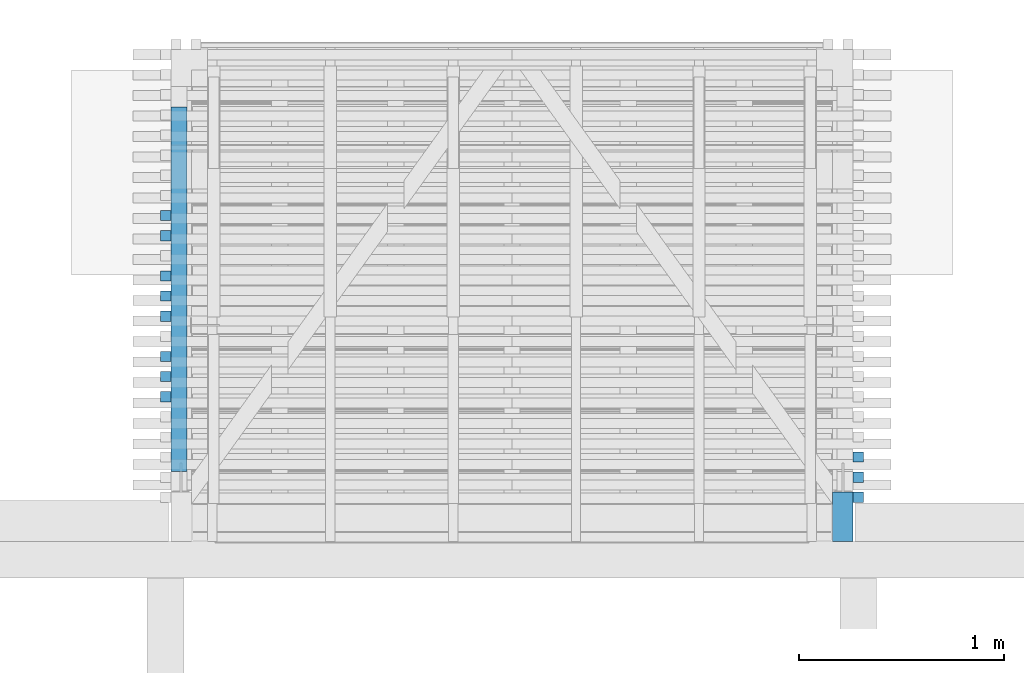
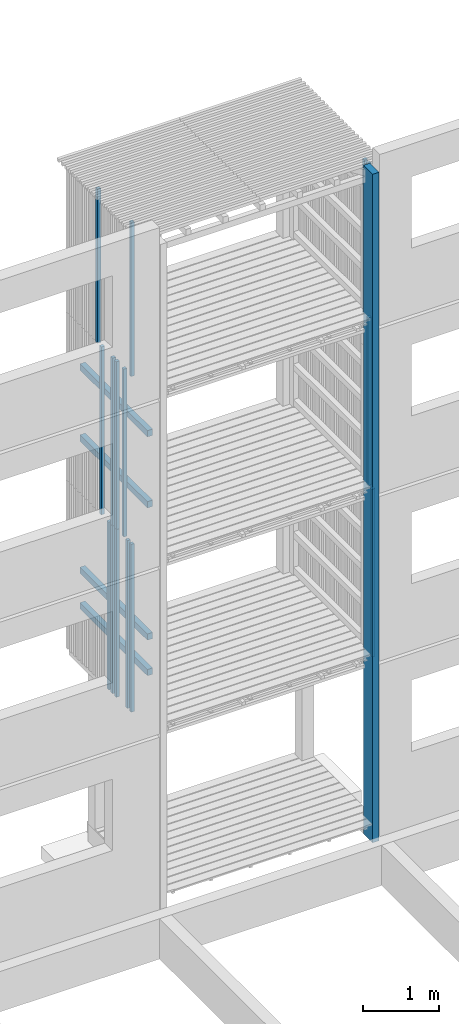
# One storey, part 88 of 182: 20 beams.
"""IFC2X3 building model written with IfcOpenShell, lengths in metres."""

from ifc_helpers import new_model, si_unit, frame, origin, place, context, project, spatial, faceted_brep, element, save


model = new_model("IFC2X3")

# Units and contexts
model_context = context("Model", 3, precision=1e-06, world=origin())
ifc_project = project(units=[si_unit("LENGTHUNIT", "METRE"), si_unit("PLANEANGLEUNIT", "RADIAN")], contexts=[model_context])

# Site, building, storey
site = spatial("IfcSite", under=ifc_project, CompositionType="ELEMENT")
building = spatial("IfcBuilding", under=site, CompositionType="ELEMENT")
storey = spatial("IfcBuildingStorey", under=building, Name="vs", CompositionType="ELEMENT", Elevation=-0.85)

# Beams
placement = place(None, origin())
beam_1_placement = place(placement, frame((43.055401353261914, 5.210077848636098, 3.401250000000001), z_axis=(0.0, 0.0, 1.0), x_axis=(0.0, 1.0, 0.0)))
element("IfcBeam", 1, at=beam_1_placement, inside=storey, Name="Support bardage", context=model_context, shape_type="Brep", body=[
    faceted_brep([(1.779999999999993, 0.039999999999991, -0.050000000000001), (1.779999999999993, 0.039999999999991, 0.05), (1.779999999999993, -0.040000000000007, 0.05), (1.779999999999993, -0.040000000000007, -0.050000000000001), (1.779999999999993, -0.040000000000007, 0.05), (1.779999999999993, 0.039999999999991, 0.05), (-4e-15, 0.039999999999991, 0.05), (-4e-15, -0.040000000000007, 0.05), (-4e-15, 0.039999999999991, 0.05), (1.779999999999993, 0.039999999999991, 0.05), (1.779999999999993, 0.039999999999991, -0.050000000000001), (-4e-15, 0.039999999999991, -0.050000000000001), (1.779999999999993, -0.040000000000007, -0.050000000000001), (1.779999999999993, -0.040000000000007, 0.05), (-4e-15, -0.040000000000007, 0.05), (-4e-15, -0.040000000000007, -0.050000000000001), (-4e-15, 0.039999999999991, -0.050000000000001), (1.779999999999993, 0.039999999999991, -0.050000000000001), (1.779999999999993, -0.040000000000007, -0.050000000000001), (-4e-15, -0.040000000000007, -0.050000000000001), (-4e-15, 0.039999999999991, 0.05), (-4e-15, 0.039999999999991, -0.050000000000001), (-4e-15, -0.040000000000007, -0.050000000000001), (-4e-15, -0.040000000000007, 0.05)], [[[0, 1, 2, 3]], [[4, 5, 6, 7]], [[8, 9, 10, 11]], [[12, 13, 14, 15]], [[16, 17, 18, 19]], [[20, 21, 22, 23]]]),
])
beam_2_placement = place(placement, frame((43.055401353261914, 5.210077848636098, 6.101249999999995), z_axis=(0.0, 0.0, 1.0), x_axis=(0.0, 1.0, 0.0)))
element("IfcBeam", 2, at=beam_2_placement, inside=storey, Name="Support bardage", context=model_context, shape_type="Brep", body=[
    faceted_brep([(1.779999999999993, 0.039999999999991, -0.05), (1.779999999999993, 0.039999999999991, 0.050000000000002), (1.779999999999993, -0.040000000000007, 0.050000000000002), (1.779999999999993, -0.040000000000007, -0.05), (1.779999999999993, -0.040000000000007, 0.050000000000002), (1.779999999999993, 0.039999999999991, 0.050000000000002), (-4e-15, 0.039999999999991, 0.050000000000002), (-4e-15, -0.040000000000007, 0.050000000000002), (-4e-15, 0.039999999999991, 0.050000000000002), (1.779999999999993, 0.039999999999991, 0.050000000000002), (1.779999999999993, 0.039999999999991, -0.05), (-4e-15, 0.039999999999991, -0.05), (1.779999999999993, -0.040000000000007, -0.05), (1.779999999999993, -0.040000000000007, 0.050000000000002), (-4e-15, -0.040000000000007, 0.050000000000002), (-4e-15, -0.040000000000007, -0.05), (-4e-15, 0.039999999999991, -0.05), (1.779999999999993, 0.039999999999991, -0.05), (1.779999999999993, -0.040000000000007, -0.05), (-4e-15, -0.040000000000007, -0.05), (-4e-15, 0.039999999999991, 0.050000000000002), (-4e-15, 0.039999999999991, -0.05), (-4e-15, -0.040000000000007, -0.05), (-4e-15, -0.040000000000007, 0.050000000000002)], [[[0, 1, 2, 3]], [[4, 5, 6, 7]], [[8, 9, 10, 11]], [[12, 13, 14, 15]], [[16, 17, 18, 19]], [[20, 21, 22, 23]]]),
])
beam_3_placement = place(placement, frame((43.055401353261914, 5.210077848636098, 3.972499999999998), z_axis=(0.0, 0.0, 1.0), x_axis=(0.0, 1.0, 0.0)))
element("IfcBeam", 3, at=beam_3_placement, inside=storey, Name="Support bardage", context=model_context, shape_type="Brep", body=[
    faceted_brep([(1.779999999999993, 0.039999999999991, -0.050000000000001), (1.779999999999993, 0.039999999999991, 0.050000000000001), (1.779999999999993, -0.040000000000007, 0.050000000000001), (1.779999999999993, -0.040000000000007, -0.050000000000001), (1.779999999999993, -0.040000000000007, 0.050000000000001), (1.779999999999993, 0.039999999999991, 0.050000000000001), (-4e-15, 0.039999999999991, 0.050000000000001), (-4e-15, -0.040000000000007, 0.050000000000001), (-4e-15, 0.039999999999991, 0.050000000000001), (1.779999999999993, 0.039999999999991, 0.050000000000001), (1.779999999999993, 0.039999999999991, -0.050000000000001), (-4e-15, 0.039999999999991, -0.050000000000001), (1.779999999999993, -0.040000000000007, -0.050000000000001), (1.779999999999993, -0.040000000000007, 0.050000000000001), (-4e-15, -0.040000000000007, 0.050000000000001), (-4e-15, -0.040000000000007, -0.050000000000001), (-4e-15, 0.039999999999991, -0.050000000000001), (1.779999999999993, 0.039999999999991, -0.050000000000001), (1.779999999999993, -0.040000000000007, -0.050000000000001), (-4e-15, -0.040000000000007, -0.050000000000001), (-4e-15, 0.039999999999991, 0.050000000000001), (-4e-15, 0.039999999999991, -0.050000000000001), (-4e-15, -0.040000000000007, -0.050000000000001), (-4e-15, -0.040000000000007, 0.050000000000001)], [[[0, 1, 2, 3]], [[4, 5, 6, 7]], [[8, 9, 10, 11]], [[12, 13, 14, 15]], [[16, 17, 18, 19]], [[20, 21, 22, 23]]]),
])
beam_4_placement = place(placement, frame((42.99040135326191, 6.361441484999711, 5.274999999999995), z_axis=(1.0, 0.0, 0.0), x_axis=(0.0, 0.0, 1.0)))
element("IfcBeam", 4, at=beam_4_placement, inside=storey, Name="Bardage", context=model_context, shape_type="Brep", body=[
    faceted_brep([(2.699999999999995, 0.024999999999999, 0.025000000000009), (2.699999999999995, -0.024999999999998, 0.025000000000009), (2.699999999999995, -0.024999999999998, -0.025000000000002), (2.699999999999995, 0.024999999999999, -0.025000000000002), (1e-15, 0.024999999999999, 0.025000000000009), (2.699999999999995, 0.024999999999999, 0.025000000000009), (2.699999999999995, 0.024999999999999, -0.025000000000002), (1e-15, 0.024999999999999, -0.025000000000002), (1e-15, -0.024999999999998, 0.025000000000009), (1e-15, 0.024999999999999, 0.025000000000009), (1e-15, 0.024999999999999, -0.025000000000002), (1e-15, -0.024999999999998, -0.025000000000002), (1e-15, 0.024999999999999, 0.025000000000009), (1e-15, -0.024999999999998, 0.025000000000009), (2.699999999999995, -0.024999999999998, 0.025000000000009), (2.699999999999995, 0.024999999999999, 0.025000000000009), (1e-15, -0.024999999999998, 0.025000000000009), (1e-15, -0.024999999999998, -0.025000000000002), (2.699999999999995, -0.024999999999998, -0.025000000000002), (2.699999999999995, -0.024999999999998, 0.025000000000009), (1e-15, -0.024999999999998, -0.025000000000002), (1e-15, 0.024999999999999, -0.025000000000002), (2.699999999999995, 0.024999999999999, -0.025000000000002), (2.699999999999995, -0.024999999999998, -0.025000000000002)], [[[0, 1, 2, 3]], [[4, 5, 6, 7]], [[8, 9, 10, 11]], [[12, 13, 14, 15]], [[16, 17, 18, 19]], [[20, 21, 22, 23]]]),
])
beam_5_placement = place(placement, frame((42.99040135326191, 5.575986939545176, 7.974999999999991), z_axis=(1.0, 0.0, 0.0), x_axis=(0.0, 0.0, 1.0)))
element("IfcBeam", 5, at=beam_5_placement, inside=storey, Name="Bardage", context=model_context, shape_type="Brep", body=[
    faceted_brep([(0.0, -0.024999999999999, 0.025000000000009), (0.0, 0.024999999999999, 0.025000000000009), (0.0, 0.024999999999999, -0.025000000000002), (0.0, -0.024999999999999, -0.025000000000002), (2.479999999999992, 0.024999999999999, -0.025000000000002), (2.479999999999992, 0.024999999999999, 0.025000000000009), (2.479999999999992, -0.024999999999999, 0.025000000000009), (2.479999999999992, -0.024999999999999, -0.025000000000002), (0.0, 0.024999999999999, 0.025000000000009), (0.0, -0.024999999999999, 0.025000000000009), (2.479999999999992, -0.024999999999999, 0.025000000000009), (2.479999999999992, 0.024999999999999, 0.025000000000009), (0.0, 0.024999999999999, -0.025000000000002), (0.0, 0.024999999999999, 0.025000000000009), (2.479999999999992, 0.024999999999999, 0.025000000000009), (2.479999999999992, 0.024999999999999, -0.025000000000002), (0.0, -0.024999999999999, -0.025000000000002), (0.0, 0.024999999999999, -0.025000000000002), (2.479999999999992, 0.024999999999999, -0.025000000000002), (2.479999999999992, -0.024999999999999, -0.025000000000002), (2.479999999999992, -0.024999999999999, 0.025000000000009), (0.0, -0.024999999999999, 0.025000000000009), (0.0, -0.024999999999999, -0.025000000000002), (2.479999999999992, -0.024999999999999, -0.025000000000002)], [[[0, 1, 2, 3]], [[4, 5, 6, 7]], [[8, 9, 10, 11]], [[12, 13, 14, 15]], [[16, 17, 18, 19]], [[20, 21, 22, 23]]]),
])
beam_6_placement = place(placement, frame((42.99040135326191, 5.968714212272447, 5.274999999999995), z_axis=(1.0, 0.0, 0.0), x_axis=(0.0, 0.0, 1.0)))
element("IfcBeam", 6, at=beam_6_placement, inside=storey, Name="Bardage", context=model_context, shape_type="Brep", body=[
    faceted_brep([(2.699999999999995, 0.025000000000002, 0.025000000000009), (2.699999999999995, -0.024999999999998, 0.025000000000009), (2.699999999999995, -0.024999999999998, -0.025000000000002), (2.699999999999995, 0.025000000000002, -0.025000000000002), (1e-15, 0.025000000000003, 0.025000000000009), (2.699999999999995, 0.025000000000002, 0.025000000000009), (2.699999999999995, 0.025000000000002, -0.025000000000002), (1e-15, 0.025000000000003, -0.025000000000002), (1e-15, -0.024999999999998, 0.025000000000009), (1e-15, 0.025000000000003, 0.025000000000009), (1e-15, 0.025000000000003, -0.025000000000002), (1e-15, -0.024999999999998, -0.025000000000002), (1e-15, 0.025000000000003, 0.025000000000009), (1e-15, -0.024999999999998, 0.025000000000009), (2.699999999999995, -0.024999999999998, 0.025000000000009), (2.699999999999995, 0.025000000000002, 0.025000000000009), (1e-15, -0.024999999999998, 0.025000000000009), (1e-15, -0.024999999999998, -0.025000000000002), (2.699999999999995, -0.024999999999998, -0.025000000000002), (2.699999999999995, -0.024999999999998, 0.025000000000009), (1e-15, -0.024999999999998, -0.025000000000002), (1e-15, 0.025000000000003, -0.025000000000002), (2.699999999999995, 0.025000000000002, -0.025000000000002), (2.699999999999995, -0.024999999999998, -0.025000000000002)], [[[0, 1, 2, 3]], [[4, 5, 6, 7]], [[8, 9, 10, 11]], [[12, 13, 14, 15]], [[16, 17, 18, 19]], [[20, 21, 22, 23]]]),
])
beam_7_placement = place(placement, frame((42.99040135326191, 6.165077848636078, 2.575000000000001), z_axis=(1.0, 0.0, 0.0), x_axis=(0.0, 0.0, 1.0)))
element("IfcBeam", 7, at=beam_7_placement, inside=storey, Name="Bardage", context=model_context, shape_type="Brep", body=[
    faceted_brep([(2.699961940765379, -0.025000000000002, 0.025000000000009), (2.699961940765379, -0.025000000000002, -0.025000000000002), (2.699961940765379, 0.025000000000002, -0.025000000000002), (2.699961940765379, 0.025000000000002, 0.025000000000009), (0.0, -0.025000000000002, 0.025000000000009), (2.699961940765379, -0.025000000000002, 0.025000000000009), (2.699961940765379, 0.025000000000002, 0.025000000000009), (0.0, 0.025000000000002, 0.025000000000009), (0.0, -0.025000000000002, 0.025000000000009), (0.0, 0.025000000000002, 0.025000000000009), (0.0, 0.025000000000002, -0.025000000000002), (0.0, -0.025000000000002, -0.025000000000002), (0.0, -0.025000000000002, 0.025000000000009), (0.0, -0.025000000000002, -0.025000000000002), (2.699961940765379, -0.025000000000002, -0.025000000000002), (2.699961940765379, -0.025000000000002, 0.025000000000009), (0.0, -0.025000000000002, -0.025000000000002), (0.0, 0.025000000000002, -0.025000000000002), (2.699961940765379, 0.025000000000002, -0.025000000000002), (2.699961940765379, -0.025000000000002, -0.025000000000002), (0.0, 0.025000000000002, -0.025000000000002), (0.0, 0.025000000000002, 0.025000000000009), (2.699961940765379, 0.025000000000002, 0.025000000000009), (2.699961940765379, 0.025000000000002, -0.025000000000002)], [[[0, 1, 2, 3]], [[4, 5, 6, 7]], [[8, 9, 10, 11]], [[12, 13, 14, 15]], [[16, 17, 18, 19]], [[20, 21, 22, 23]]]),
])
beam_8_placement = place(placement, frame((42.99040135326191, 5.772350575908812, 5.274999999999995), z_axis=(1.0, 0.0, 0.0), x_axis=(0.0, 0.0, 1.0)))
element("IfcBeam", 8, at=beam_8_placement, inside=storey, Name="Bardage", context=model_context, shape_type="Brep", body=[
    faceted_brep([(2.699999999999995, 0.024999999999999, 0.025000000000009), (2.699999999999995, -0.024999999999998, 0.025000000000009), (2.699999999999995, -0.024999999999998, -0.025000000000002), (2.699999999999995, 0.024999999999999, -0.025000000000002), (1e-15, 0.024999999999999, 0.025000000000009), (2.699999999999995, 0.024999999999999, 0.025000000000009), (2.699999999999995, 0.024999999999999, -0.025000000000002), (1e-15, 0.024999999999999, -0.025000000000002), (1e-15, -0.024999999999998, 0.025000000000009), (1e-15, 0.024999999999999, 0.025000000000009), (1e-15, 0.024999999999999, -0.025000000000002), (1e-15, -0.024999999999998, -0.025000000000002), (1e-15, 0.024999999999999, 0.025000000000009), (1e-15, -0.024999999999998, 0.025000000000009), (2.699999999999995, -0.024999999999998, 0.025000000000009), (2.699999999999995, 0.024999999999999, 0.025000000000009), (1e-15, -0.024999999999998, 0.025000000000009), (1e-15, -0.024999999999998, -0.025000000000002), (2.699999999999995, -0.024999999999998, -0.025000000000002), (2.699999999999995, -0.024999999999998, 0.025000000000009), (1e-15, -0.024999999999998, -0.025000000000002), (1e-15, 0.024999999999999, -0.025000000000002), (2.699999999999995, 0.024999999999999, -0.025000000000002), (2.699999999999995, -0.024999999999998, -0.025000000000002)], [[[0, 1, 2, 3]], [[4, 5, 6, 7]], [[8, 9, 10, 11]], [[12, 13, 14, 15]], [[16, 17, 18, 19]], [[20, 21, 22, 23]]]),
])
beam_9_placement = place(placement, frame((43.055401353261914, 5.210077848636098, 7.24374999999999), z_axis=(0.0, 0.0, 1.0), x_axis=(0.0, 1.0, 0.0)))
element("IfcBeam", 9, at=beam_9_placement, inside=storey, Name="Support bardage", context=model_context, shape_type="Brep", body=[
    faceted_brep([(1.779999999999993, 0.039999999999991, -0.049999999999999), (1.779999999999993, 0.039999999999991, 0.050000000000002), (1.779999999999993, -0.040000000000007, 0.050000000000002), (1.779999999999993, -0.040000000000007, -0.049999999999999), (1.779999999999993, -0.040000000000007, 0.050000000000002), (1.779999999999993, 0.039999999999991, 0.050000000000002), (-4e-15, 0.039999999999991, 0.050000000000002), (-4e-15, -0.040000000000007, 0.050000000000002), (-4e-15, 0.039999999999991, 0.050000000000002), (1.779999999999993, 0.039999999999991, 0.050000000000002), (1.779999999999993, 0.039999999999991, -0.049999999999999), (-4e-15, 0.039999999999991, -0.049999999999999), (1.779999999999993, -0.040000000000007, -0.049999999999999), (1.779999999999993, -0.040000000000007, 0.050000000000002), (-4e-15, -0.040000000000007, 0.050000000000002), (-4e-15, -0.040000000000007, -0.049999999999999), (-4e-15, 0.039999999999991, -0.049999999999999), (1.779999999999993, 0.039999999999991, -0.049999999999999), (1.779999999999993, -0.040000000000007, -0.049999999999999), (-4e-15, -0.040000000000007, -0.049999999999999), (-4e-15, 0.039999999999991, 0.050000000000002), (-4e-15, 0.039999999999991, -0.049999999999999), (-4e-15, -0.040000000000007, -0.049999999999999), (-4e-15, -0.040000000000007, 0.050000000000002)], [[[0, 1, 2, 3]], [[4, 5, 6, 7]], [[8, 9, 10, 11]], [[12, 13, 14, 15]], [[16, 17, 18, 19]], [[20, 21, 22, 23]]]),
])
beam_10_placement = place(placement, frame((42.99040135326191, 6.066896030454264, 5.274999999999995), z_axis=(1.0, 0.0, 0.0), x_axis=(0.0, 0.0, 1.0)))
element("IfcBeam", 10, at=beam_10_placement, inside=storey, Name="Bardage", context=model_context, shape_type="Brep", body=[
    faceted_brep([(2.699999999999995, 0.025000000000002, 0.025000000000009), (2.699999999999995, -0.024999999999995, 0.025000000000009), (2.699999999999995, -0.024999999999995, -0.025000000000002), (2.699999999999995, 0.025000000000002, -0.025000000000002), (1e-15, 0.025000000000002, 0.025000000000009), (2.699999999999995, 0.025000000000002, 0.025000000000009), (2.699999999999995, 0.025000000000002, -0.025000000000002), (1e-15, 0.025000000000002, -0.025000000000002), (1e-15, -0.024999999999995, 0.025000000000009), (1e-15, 0.025000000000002, 0.025000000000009), (1e-15, 0.025000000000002, -0.025000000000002), (1e-15, -0.024999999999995, -0.025000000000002), (1e-15, 0.025000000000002, 0.025000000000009), (1e-15, -0.024999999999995, 0.025000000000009), (2.699999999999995, -0.024999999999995, 0.025000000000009), (2.699999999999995, 0.025000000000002, 0.025000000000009), (1e-15, -0.024999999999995, 0.025000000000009), (1e-15, -0.024999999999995, -0.025000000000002), (2.699999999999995, -0.024999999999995, -0.025000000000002), (2.699999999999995, -0.024999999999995, 0.025000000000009), (1e-15, -0.024999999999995, -0.025000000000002), (1e-15, 0.025000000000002, -0.025000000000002), (2.699999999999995, 0.025000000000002, -0.025000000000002), (2.699999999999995, -0.024999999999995, -0.025000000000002)], [[[0, 1, 2, 3]], [[4, 5, 6, 7]], [[8, 9, 10, 11]], [[12, 13, 14, 15]], [[16, 17, 18, 19]], [[20, 21, 22, 23]]]),
])
beam_11_placement = place(placement, frame((42.99040135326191, 6.066896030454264, 2.575000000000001), z_axis=(1.0, 0.0, 0.0), x_axis=(0.0, 0.0, 1.0)))
element("IfcBeam", 11, at=beam_11_placement, inside=storey, Name="Bardage", context=model_context, shape_type="Brep", body=[
    faceted_brep([(2.699961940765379, -0.024999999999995, 0.025000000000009), (2.699961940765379, -0.024999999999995, -0.025000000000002), (2.699961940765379, 0.025000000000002, -0.025000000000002), (2.699961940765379, 0.025000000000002, 0.025000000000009), (0.0, -0.024999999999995, 0.025000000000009), (2.699961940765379, -0.024999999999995, 0.025000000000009), (2.699961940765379, 0.025000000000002, 0.025000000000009), (0.0, 0.025000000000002, 0.025000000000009), (0.0, -0.024999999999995, 0.025000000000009), (0.0, 0.025000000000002, 0.025000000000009), (0.0, 0.025000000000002, -0.025000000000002), (0.0, -0.024999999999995, -0.025000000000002), (0.0, -0.024999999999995, 0.025000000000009), (0.0, -0.024999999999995, -0.025000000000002), (2.699961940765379, -0.024999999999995, -0.025000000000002), (2.699961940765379, -0.024999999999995, 0.025000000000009), (0.0, -0.024999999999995, -0.025000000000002), (0.0, 0.025000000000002, -0.025000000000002), (2.699961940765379, 0.025000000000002, -0.025000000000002), (2.699961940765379, -0.024999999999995, -0.025000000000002), (0.0, 0.025000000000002, -0.025000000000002), (0.0, 0.025000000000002, 0.025000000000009), (2.699961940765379, 0.025000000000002, 0.025000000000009), (2.699961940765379, 0.025000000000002, -0.025000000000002)], [[[0, 1, 2, 3]], [[4, 5, 6, 7]], [[8, 9, 10, 11]], [[12, 13, 14, 15]], [[16, 17, 18, 19]], [[20, 21, 22, 23]]]),
])
beam_12_placement = place(placement, frame((42.99040135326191, 5.674168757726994, 2.575000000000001), z_axis=(1.0, 0.0, 0.0), x_axis=(0.0, 1e-15, 1.0)))
element("IfcBeam", 12, at=beam_12_placement, inside=storey, Name="Bardage", context=model_context, shape_type="Brep", body=[
    faceted_brep([(2.699961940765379, -0.024999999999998, 0.025000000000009), (2.699961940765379, -0.024999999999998, -0.025000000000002), (2.699961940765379, 0.025000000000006, -0.025000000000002), (2.699961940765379, 0.025000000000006, 0.025000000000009), (0.0, -0.025000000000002, 0.025000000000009), (2.699961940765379, -0.024999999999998, 0.025000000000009), (2.699961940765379, 0.025000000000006, 0.025000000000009), (0.0, 0.025000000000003, 0.025000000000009), (0.0, -0.025000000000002, 0.025000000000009), (0.0, 0.025000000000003, 0.025000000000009), (0.0, 0.025000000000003, -0.025000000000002), (0.0, -0.025000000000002, -0.025000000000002), (0.0, -0.025000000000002, 0.025000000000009), (0.0, -0.025000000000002, -0.025000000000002), (2.699961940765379, -0.024999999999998, -0.025000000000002), (2.699961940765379, -0.024999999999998, 0.025000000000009), (0.0, -0.025000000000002, -0.025000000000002), (0.0, 0.025000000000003, -0.025000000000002), (2.699961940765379, 0.025000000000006, -0.025000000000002), (2.699961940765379, -0.024999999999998, -0.025000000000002), (0.0, 0.025000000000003, -0.025000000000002), (0.0, 0.025000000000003, 0.025000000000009), (2.699961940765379, 0.025000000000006, 0.025000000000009), (2.699961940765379, 0.025000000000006, -0.025000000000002)], [[[0, 1, 2, 3]], [[4, 5, 6, 7]], [[8, 9, 10, 11]], [[12, 13, 14, 15]], [[16, 17, 18, 19]], [[20, 21, 22, 23]]]),
])
beam_13_placement = place(placement, frame((42.99040135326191, 6.459623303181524, 7.974999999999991), z_axis=(1.0, 0.0, 0.0), x_axis=(0.0, 0.0, 1.0)))
element("IfcBeam", 13, at=beam_13_placement, inside=storey, Name="Bardage", context=model_context, shape_type="Brep", body=[
    faceted_brep([(0.0, -0.025000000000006, 0.025000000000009), (0.0, 0.024999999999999, 0.025000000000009), (0.0, 0.024999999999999, -0.025000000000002), (0.0, -0.025000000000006, -0.025000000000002), (2.479999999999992, 0.024999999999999, -0.025000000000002), (2.479999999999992, 0.024999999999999, 0.025000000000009), (2.479999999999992, -0.025000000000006, 0.025000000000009), (2.479999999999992, -0.025000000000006, -0.025000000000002), (0.0, 0.024999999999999, 0.025000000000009), (0.0, -0.025000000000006, 0.025000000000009), (2.479999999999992, -0.025000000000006, 0.025000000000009), (2.479999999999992, 0.024999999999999, 0.025000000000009), (0.0, 0.024999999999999, -0.025000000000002), (0.0, 0.024999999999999, 0.025000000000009), (2.479999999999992, 0.024999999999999, 0.025000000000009), (2.479999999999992, 0.024999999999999, -0.025000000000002), (0.0, -0.025000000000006, -0.025000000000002), (0.0, 0.024999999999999, -0.025000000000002), (2.479999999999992, 0.024999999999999, -0.025000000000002), (2.479999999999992, -0.025000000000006, -0.025000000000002), (2.479999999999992, -0.025000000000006, 0.025000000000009), (0.0, -0.025000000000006, 0.025000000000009), (0.0, -0.025000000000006, -0.025000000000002), (2.479999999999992, -0.025000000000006, -0.025000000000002)], [[[0, 1, 2, 3]], [[4, 5, 6, 7]], [[8, 9, 10, 11]], [[12, 13, 14, 15]], [[16, 17, 18, 19]], [[20, 21, 22, 23]]]),
])
beam_14_placement = place(placement, frame((42.99040135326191, 5.968714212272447, 2.575000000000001), z_axis=(1.0, 0.0, 0.0), x_axis=(0.0, 0.0, 1.0)))
element("IfcBeam", 14, at=beam_14_placement, inside=storey, Name="Bardage", context=model_context, shape_type="Brep", body=[
    faceted_brep([(2.699961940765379, -0.024999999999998, 0.025000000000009), (2.699961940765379, -0.024999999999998, -0.025000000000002), (2.699961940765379, 0.025000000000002, -0.025000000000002), (2.699961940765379, 0.025000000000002, 0.025000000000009), (0.0, -0.024999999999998, 0.025000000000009), (2.699961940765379, -0.024999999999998, 0.025000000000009), (2.699961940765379, 0.025000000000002, 0.025000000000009), (0.0, 0.025000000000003, 0.025000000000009), (0.0, -0.024999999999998, 0.025000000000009), (0.0, 0.025000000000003, 0.025000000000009), (0.0, 0.025000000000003, -0.025000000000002), (0.0, -0.024999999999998, -0.025000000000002), (0.0, -0.024999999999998, 0.025000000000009), (0.0, -0.024999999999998, -0.025000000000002), (2.699961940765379, -0.024999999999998, -0.025000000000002), (2.699961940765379, -0.024999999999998, 0.025000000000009), (0.0, -0.024999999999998, -0.025000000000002), (0.0, 0.025000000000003, -0.025000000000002), (2.699961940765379, 0.025000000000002, -0.025000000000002), (2.699961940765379, -0.024999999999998, -0.025000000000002), (0.0, 0.025000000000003, -0.025000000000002), (0.0, 0.025000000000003, 0.025000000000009), (2.699961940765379, 0.025000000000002, 0.025000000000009), (2.699961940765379, 0.025000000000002, -0.025000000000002)], [[[0, 1, 2, 3]], [[4, 5, 6, 7]], [[8, 9, 10, 11]], [[12, 13, 14, 15]], [[16, 17, 18, 19]], [[20, 21, 22, 23]]]),
])
beam_15_placement = place(placement, frame((42.99040135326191, 5.575986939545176, 2.575000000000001), z_axis=(1.0, 0.0, 0.0), x_axis=(0.0, 0.0, 1.0)))
element("IfcBeam", 15, at=beam_15_placement, inside=storey, Name="Bardage", context=model_context, shape_type="Brep", body=[
    faceted_brep([(2.699961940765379, -0.025000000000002, 0.025000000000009), (2.699961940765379, -0.025000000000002, -0.025000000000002), (2.699961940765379, 0.024999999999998, -0.025000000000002), (2.699961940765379, 0.024999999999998, 0.025000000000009), (0.0, -0.024999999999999, 0.025000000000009), (2.699961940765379, -0.025000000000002, 0.025000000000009), (2.699961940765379, 0.024999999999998, 0.025000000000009), (0.0, 0.024999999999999, 0.025000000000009), (0.0, -0.024999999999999, 0.025000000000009), (0.0, 0.024999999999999, 0.025000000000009), (0.0, 0.024999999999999, -0.025000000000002), (0.0, -0.024999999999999, -0.025000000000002), (0.0, -0.024999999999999, 0.025000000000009), (0.0, -0.024999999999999, -0.025000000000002), (2.699961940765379, -0.025000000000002, -0.025000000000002), (2.699961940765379, -0.025000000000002, 0.025000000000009), (0.0, -0.024999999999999, -0.025000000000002), (0.0, 0.024999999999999, -0.025000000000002), (2.699961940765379, 0.024999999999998, -0.025000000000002), (2.699961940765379, -0.025000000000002, -0.025000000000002), (0.0, 0.024999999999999, -0.025000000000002), (0.0, 0.024999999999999, 0.025000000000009), (2.699961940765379, 0.024999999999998, 0.025000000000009), (2.699961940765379, 0.024999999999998, -0.025000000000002)], [[[0, 1, 2, 3]], [[4, 5, 6, 7]], [[8, 9, 10, 11]], [[12, 13, 14, 15]], [[16, 17, 18, 19]], [[20, 21, 22, 23]]]),
])
beam_16_placement = place(placement, frame((46.37040135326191, 5.183259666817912, 7.974999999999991), z_axis=(-1.0, 0.0, 0.0), x_axis=(0.0, 0.0, 1.0)))
element("IfcBeam", 16, at=beam_16_placement, inside=storey, Name="Bardage", context=model_context, shape_type="Brep", body=[
    faceted_brep([(2.479999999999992, -0.025000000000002, 0.024999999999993), (2.479999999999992, -0.025000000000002, -0.025000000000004), (2.479999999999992, 0.024999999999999, -0.025000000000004), (2.479999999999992, 0.024999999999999, 0.024999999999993), (0.0, 0.024999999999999, 0.024999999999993), (0.0, -0.025000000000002, 0.024999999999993), (2.479999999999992, -0.025000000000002, 0.024999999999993), (2.479999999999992, 0.024999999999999, 0.024999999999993), (0.0, -0.025000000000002, 0.024999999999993), (0.0, 0.024999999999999, 0.024999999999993), (0.0, 0.024999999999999, -0.025000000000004), (0.0, -0.025000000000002, -0.025000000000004), (0.0, 0.024999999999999, -0.025000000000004), (0.0, 0.024999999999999, 0.024999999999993), (2.479999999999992, 0.024999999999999, 0.024999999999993), (2.479999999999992, 0.024999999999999, -0.025000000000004), (0.0, -0.025000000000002, -0.025000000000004), (0.0, 0.024999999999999, -0.025000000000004), (2.479999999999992, 0.024999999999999, -0.025000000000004), (2.479999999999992, -0.025000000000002, -0.025000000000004), (2.479999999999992, -0.025000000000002, 0.024999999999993), (0.0, -0.025000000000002, 0.024999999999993), (0.0, -0.025000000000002, -0.025000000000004), (2.479999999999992, -0.025000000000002, -0.025000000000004)], [[[0, 1, 2, 3]], [[4, 5, 6, 7]], [[8, 9, 10, 11]], [[12, 13, 14, 15]], [[16, 17, 18, 19]], [[20, 21, 22, 23]]]),
])
beam_17_placement = place(placement, frame((46.37040135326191, 5.183259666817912, 5.274999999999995), z_axis=(-1.0, 0.0, 0.0), x_axis=(0.0, 0.0, 1.0)))
element("IfcBeam", 17, at=beam_17_placement, inside=storey, Name="Bardage", context=model_context, shape_type="Brep", body=[
    faceted_brep([(1e-15, -0.025000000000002, 0.024999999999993), (1e-15, 0.024999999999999, 0.024999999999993), (1e-15, 0.024999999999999, -0.025000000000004), (1e-15, -0.025000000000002, -0.025000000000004), (2.699999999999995, -0.025000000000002, -0.025000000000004), (2.699999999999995, 0.024999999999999, -0.025000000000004), (2.699999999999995, 0.024999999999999, 0.024999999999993), (2.699999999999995, -0.025000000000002, 0.024999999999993), (1e-15, -0.025000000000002, 0.024999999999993), (1e-15, -0.025000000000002, -0.025000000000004), (2.699999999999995, -0.025000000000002, -0.025000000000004), (2.699999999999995, -0.025000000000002, 0.024999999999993), (2.699999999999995, -0.025000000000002, -0.025000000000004), (1e-15, -0.025000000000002, -0.025000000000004), (1e-15, 0.024999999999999, -0.025000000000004), (2.699999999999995, 0.024999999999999, -0.025000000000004), (2.699999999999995, 0.024999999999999, -0.025000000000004), (1e-15, 0.024999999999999, -0.025000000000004), (1e-15, 0.024999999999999, 0.024999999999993), (2.699999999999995, 0.024999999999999, 0.024999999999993), (2.699999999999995, 0.024999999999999, 0.024999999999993), (1e-15, 0.024999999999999, 0.024999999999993), (1e-15, -0.025000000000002, 0.024999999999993), (2.699999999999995, -0.025000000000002, 0.024999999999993)], [[[0, 1, 2, 3]], [[4, 5, 6, 7]], [[8, 9, 10, 11]], [[12, 13, 14, 15]], [[16, 17, 18, 19]], [[20, 21, 22, 23]]]),
])
beam_18_placement = place(placement, frame((46.37040135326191, 5.281441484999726, 7.974999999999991), z_axis=(-1.0, 0.0, 0.0), x_axis=(0.0, 0.0, 1.0)))
element("IfcBeam", 18, at=beam_18_placement, inside=storey, Name="Bardage", context=model_context, shape_type="Brep", body=[
    faceted_brep([(2.479999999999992, -0.024999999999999, 0.024999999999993), (2.479999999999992, -0.024999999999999, -0.025000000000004), (2.479999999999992, 0.025000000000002, -0.025000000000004), (2.479999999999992, 0.025000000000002, 0.024999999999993), (0.0, 0.025000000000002, 0.024999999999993), (0.0, -0.024999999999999, 0.024999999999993), (2.479999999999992, -0.024999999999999, 0.024999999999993), (2.479999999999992, 0.025000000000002, 0.024999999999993), (0.0, -0.024999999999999, 0.024999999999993), (0.0, 0.025000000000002, 0.024999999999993), (0.0, 0.025000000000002, -0.025000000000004), (0.0, -0.024999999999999, -0.025000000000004), (0.0, 0.025000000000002, -0.025000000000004), (0.0, 0.025000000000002, 0.024999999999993), (2.479999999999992, 0.025000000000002, 0.024999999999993), (2.479999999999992, 0.025000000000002, -0.025000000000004), (0.0, -0.024999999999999, -0.025000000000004), (0.0, 0.025000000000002, -0.025000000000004), (2.479999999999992, 0.025000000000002, -0.025000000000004), (2.479999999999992, -0.024999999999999, -0.025000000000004), (2.479999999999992, -0.024999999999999, 0.024999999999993), (0.0, -0.024999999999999, 0.024999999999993), (0.0, -0.024999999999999, -0.025000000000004), (2.479999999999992, -0.024999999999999, -0.025000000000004)], [[[0, 1, 2, 3]], [[4, 5, 6, 7]], [[8, 9, 10, 11]], [[12, 13, 14, 15]], [[16, 17, 18, 19]], [[20, 21, 22, 23]]]),
])
beam_19_placement = place(placement, frame((46.2954013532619, 4.990077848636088, 10.494999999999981), z_axis=(0.0, 1.0, 0.0), x_axis=(0.0, 0.0, -1.0)))
element("IfcBeam", 19, at=beam_19_placement, inside=storey, Name="Poteau", context=model_context, shape_type="Brep", body=[
    faceted_brep([(0.0, -0.050000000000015, -0.120000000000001), (10.754999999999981, -0.050000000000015, -0.120000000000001), (10.754999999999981, -0.050000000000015, 0.120000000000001), (0.0, -0.050000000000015, 0.120000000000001), (0.0, 0.049999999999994, -0.120000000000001), (10.754999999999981, 0.049999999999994, -0.120000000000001), (10.754999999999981, -0.050000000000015, -0.120000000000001), (0.0, -0.050000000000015, -0.120000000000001), (10.754999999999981, -0.050000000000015, 0.120000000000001), (10.754999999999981, -0.050000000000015, -0.120000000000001), (10.754999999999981, 0.049999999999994, -0.120000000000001), (10.754999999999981, 0.049999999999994, 0.120000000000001), (0.0, -0.050000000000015, 0.120000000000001), (10.754999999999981, -0.050000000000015, 0.120000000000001), (10.754999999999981, 0.049999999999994, 0.120000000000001), (0.0, 0.049999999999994, 0.120000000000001), (0.0, 0.049999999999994, 0.120000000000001), (10.754999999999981, 0.049999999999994, 0.120000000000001), (10.754999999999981, 0.049999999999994, -0.120000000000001), (0.0, 0.049999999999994, -0.120000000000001), (0.0, 0.049999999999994, 0.120000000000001), (0.0, 0.049999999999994, -0.120000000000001), (0.0, -0.050000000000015, -0.120000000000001), (0.0, -0.050000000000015, 0.120000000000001)], [[[0, 1, 2, 3]], [[4, 5, 6, 7]], [[8, 9, 10, 11]], [[12, 13, 14, 15]], [[16, 17, 18, 19]], [[20, 21, 22, 23]]]),
])
beam_20_placement = place(placement, frame((46.37040135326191, 5.085077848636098, 2.575000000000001), z_axis=(-1.0, 0.0, 0.0), x_axis=(0.0, 0.0, 1.0)))
element("IfcBeam", 20, at=beam_20_placement, inside=storey, Name="Bardage", context=model_context, shape_type="Brep", body=[
    faceted_brep([(0.0, -0.025000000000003, 0.024999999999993), (0.0, 0.024999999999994, 0.024999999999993), (0.0, 0.024999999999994, -0.025000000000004), (0.0, -0.025000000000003, -0.025000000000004), (2.699961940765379, 0.024999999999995, -0.025000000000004), (2.699961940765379, 0.024999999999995, 0.024999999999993), (2.699961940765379, -0.025000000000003, 0.024999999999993), (2.699961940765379, -0.025000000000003, -0.025000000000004), (0.0, -0.025000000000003, -0.025000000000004), (0.0, 0.024999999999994, -0.025000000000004), (2.699961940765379, 0.024999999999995, -0.025000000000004), (2.699961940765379, -0.025000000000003, -0.025000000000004), (2.699961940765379, 0.024999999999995, -0.025000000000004), (0.0, 0.024999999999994, -0.025000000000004), (0.0, 0.024999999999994, 0.024999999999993), (2.699961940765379, 0.024999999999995, 0.024999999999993), (2.699961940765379, 0.024999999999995, 0.024999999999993), (0.0, 0.024999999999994, 0.024999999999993), (0.0, -0.025000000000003, 0.024999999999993), (2.699961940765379, -0.025000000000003, 0.024999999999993), (2.699961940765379, -0.025000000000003, 0.024999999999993), (0.0, -0.025000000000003, 0.024999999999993), (0.0, -0.025000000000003, -0.025000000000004), (2.699961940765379, -0.025000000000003, -0.025000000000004)], [[[0, 1, 2, 3]], [[4, 5, 6, 7]], [[8, 9, 10, 11]], [[12, 13, 14, 15]], [[16, 17, 18, 19]], [[20, 21, 22, 23]]]),
])

save(model, "model.ifc")
